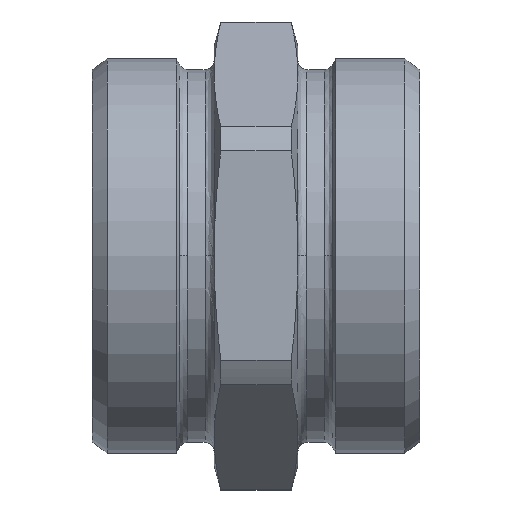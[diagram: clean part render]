
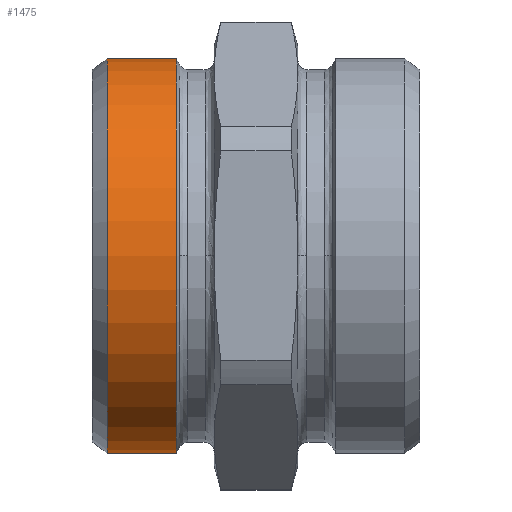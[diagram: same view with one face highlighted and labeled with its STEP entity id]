
A CAD part, top view. The second image highlights one B-rep face of the part: STEP entity #1475.
In plain terms, the highlighted cylindrical face has radius 25.91 mm (diameter 51.82 mm), a partial arc.
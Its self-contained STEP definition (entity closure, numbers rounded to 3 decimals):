
#859=CARTESIAN_POINT('',(0.,-25.91,19.563));
#860=VERTEX_POINT('',#859);
#861=CARTESIAN_POINT('',(0.,-25.91,10.493));
#862=VERTEX_POINT('',#861);
#863=CARTESIAN_POINT('',(0.,-25.91,19.563));
#864=DIRECTION('',(0.0,0.0,-1.0));
#865=VECTOR('',#864,9.07);
#866=LINE('',#863,#865);
#867=EDGE_CURVE('',#860,#862,#866,.T.);
#869=CARTESIAN_POINT('',(0.,25.91,19.563));
#870=VERTEX_POINT('',#869);
#878=CARTESIAN_POINT('',(0.,25.91,10.493));
#879=VERTEX_POINT('',#878);
#880=CARTESIAN_POINT('',(0.,25.91,10.493));
#881=DIRECTION('',(0.0,0.0,1.0));
#882=VECTOR('',#881,9.07);
#883=LINE('',#880,#882);
#884=EDGE_CURVE('',#879,#870,#883,.T.);
#1351=CARTESIAN_POINT('',(0.,0.,10.493));
#1352=DIRECTION('',(0.0,0.0,-1.0));
#1353=DIRECTION('',(0.0,-1.0,0.0));
#1354=AXIS2_PLACEMENT_3D('',#1351,#1352,#1353);
#1355=CIRCLE('',#1354,25.91);
#1356=EDGE_CURVE('',#879,#862,#1355,.T.);
#1452=CARTESIAN_POINT('',(0.,0.,19.563));
#1453=DIRECTION('',(0.0,0.0,-1.0));
#1454=DIRECTION('',(0.0,-1.0,0.0));
#1455=AXIS2_PLACEMENT_3D('',#1452,#1453,#1454);
#1456=CIRCLE('',#1455,25.91);
#1457=EDGE_CURVE('',#870,#860,#1456,.T.);
#1464=CARTESIAN_POINT('',(0.,0.,15.028));
#1465=DIRECTION('',(0.,0.,-1.0));
#1466=DIRECTION('',(0.0,-1.0,0.0));
#1467=AXIS2_PLACEMENT_3D('',#1464,#1465,#1466);
#1468=CYLINDRICAL_SURFACE('',#1467,25.91);
#1469=ORIENTED_EDGE('',*,*,#867,.T.);
#1470=ORIENTED_EDGE('',*,*,#1356,.F.);
#1471=ORIENTED_EDGE('',*,*,#884,.T.);
#1472=ORIENTED_EDGE('',*,*,#1457,.T.);
#1473=EDGE_LOOP('',(#1469,#1470,#1471,#1472));
#1474=FACE_OUTER_BOUND('',#1473,.T.);
#1475=ADVANCED_FACE('',(#1474),#1468,.T.);
